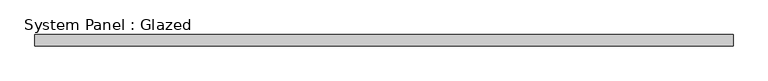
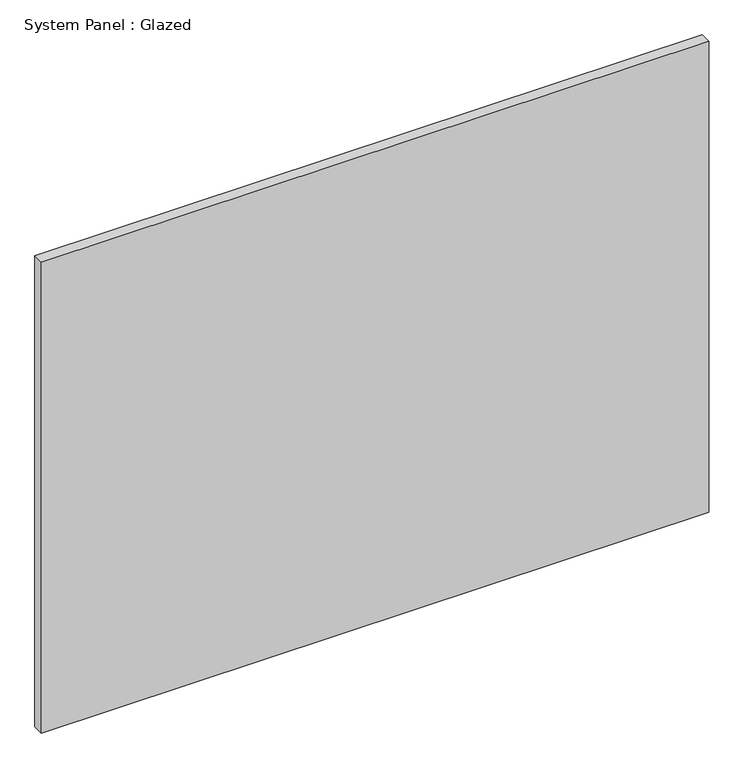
"""IFC4 building model written with IfcOpenShell, lengths in millimetres: plate geometry, System Panel : Glazed."""

from ifc_helpers import new_model, si_unit, origin, origin_with_axes, place, context, project, spatial, polyline, outline, extrude, source, transform, mapped, element, save


def system_panel_glazed_7e97f2aa(model_context):
    return source(origin(), model_context, "Body", "SweptSolid", [
        extrude(outline(polyline([(774.7, -44.45), (-774.7, -44.45), (-774.7, -19.05), (774.7, -19.05), (774.7, -44.45)])), origin_with_axes(), (0.0, 0.0, 1.0), 1155.7),
    ])


if __name__ == "__main__":
    model = new_model("IFC4")
    model_context = context("Model", 3, world=origin())
    ifc_project = project(units=[si_unit("LENGTHUNIT", "METRE", prefix="MILLI")], contexts=[model_context])
    site = spatial("IfcSite", under=ifc_project)
    building = spatial("IfcBuilding", under=site)
    placement = place(None, origin())
    system_panel_glazed_shape = system_panel_glazed_7e97f2aa(model_context)
    element("IfcPlate", 1, ObjectType="System Panel : Glazed", at=placement, inside=building, context=model_context, shape_type="MappedRepresentation", body=[
        mapped(system_panel_glazed_shape, transform((0.0, 0.0, 0.0), x_axis=(1.0, 0.0, 0.0), y_axis=(0.0, 1.0, 0.0), z_axis=(0.0, 0.0, 1.0))),
    ])
    save(model, "model.ifc")
